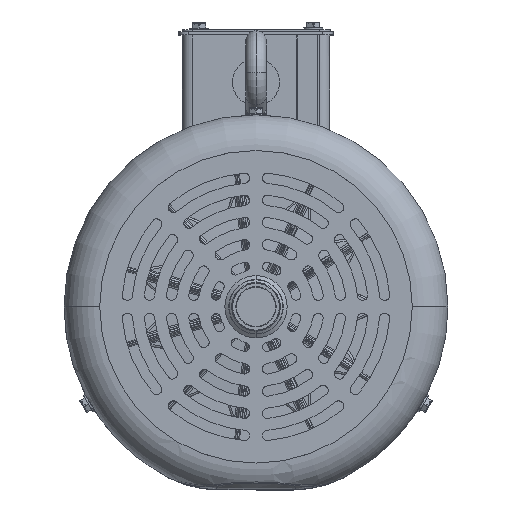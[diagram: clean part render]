
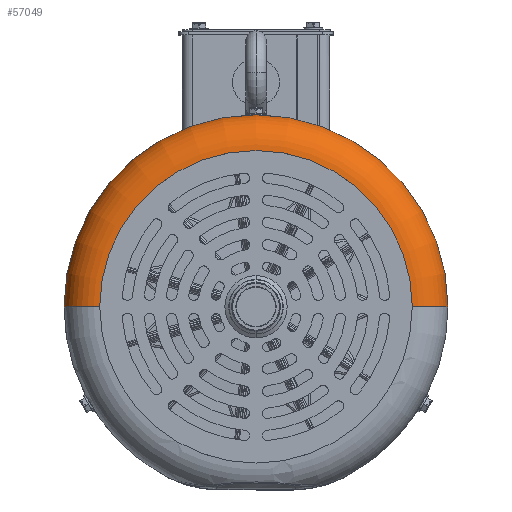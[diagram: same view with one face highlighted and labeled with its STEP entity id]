
A CAD part, top view. The second image highlights one B-rep face of the part: STEP entity #57049.
In plain terms, the highlighted toroidal (fillet/blend) face has major radius 73.889 mm and minor radius 16.891 mm.
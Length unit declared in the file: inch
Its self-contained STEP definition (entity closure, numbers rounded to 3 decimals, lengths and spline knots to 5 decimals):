
#3217 = EDGE_CURVE ( 'NONE', #5202, #138512, #97874, .T. ) ;
#5202 = VERTEX_POINT ( 'NONE', #27671 ) ;
#9460 = DIRECTION ( 'NONE',  ( 1., 0., 0. ) ) ;
#10665 = CARTESIAN_POINT ( 'NONE',  ( 3.574, 0., 18.67445 ) ) ;
#12051 = TOROIDAL_SURFACE ( 'NONE', #105674, 2.909, 0.665 ) ;
#13538 = AXIS2_PLACEMENT_3D ( 'NONE', #27636, #107387, #39080 ) ;
#13770 = CIRCLE ( 'NONE', #122442, 0.665 ) ;
#14218 = CARTESIAN_POINT ( 'NONE',  ( 2.909, 0., 18.67445 ) ) ;
#19241 = CARTESIAN_POINT ( 'NONE',  ( -2.909, 0., 19.33945 ) ) ;
#22202 = CARTESIAN_POINT ( 'NONE',  ( -2.909, 0., 18.67445 ) ) ;
#23771 = EDGE_CURVE ( 'NONE', #128953, #32180, #128699, .T. ) ;
#25749 = DIRECTION ( 'NONE',  ( -1., 0., 0. ) ) ;
#27636 = CARTESIAN_POINT ( 'NONE',  ( 0., 0., 19.33945 ) ) ;
#27671 = CARTESIAN_POINT ( 'NONE',  ( 2.909, 0., 19.33945 ) ) ;
#32180 = VERTEX_POINT ( 'NONE', #10665 ) ;
#33714 = DIRECTION ( 'NONE',  ( 1., 0., 0. ) ) ;
#38352 = EDGE_LOOP ( 'NONE', ( #120132, #105792, #109788, #43498 ) ) ;
#39080 = DIRECTION ( 'NONE',  ( -1., 0., 0. ) ) ;
#43498 = ORIENTED_EDGE ( 'NONE', *, *, #100657, .F. ) ;
#52235 = DIRECTION ( 'NONE',  ( 0., 0., -1. ) ) ;
#57049 = ADVANCED_FACE ( 'NONE', ( #95931 ), #12051, .T. ) ;
#62787 = AXIS2_PLACEMENT_3D ( 'NONE', #14218, #94034, #25749 ) ;
#63697 = DIRECTION ( 'NONE',  ( -1., 0., 0. ) ) ;
#77851 = DIRECTION ( 'NONE',  ( 0., 0., -1. ) ) ;
#91823 = CARTESIAN_POINT ( 'NONE',  ( -3.574, 0., 18.67445 ) ) ;
#94034 = DIRECTION ( 'NONE',  ( 0., 1., 0. ) ) ;
#95931 = FACE_OUTER_BOUND ( 'NONE', #38352, .T. ) ;
#96763 = CIRCLE ( 'NONE', #62787, 0.665 ) ;
#97105 = CARTESIAN_POINT ( 'NONE',  ( 0., 0., 18.67445 ) ) ;
#97874 = CIRCLE ( 'NONE', #13538, 2.909 ) ;
#100657 = EDGE_CURVE ( 'NONE', #138512, #128953, #13770, .T. ) ;
#101924 = DIRECTION ( 'NONE',  ( 0., -1., 0. ) ) ;
#105674 = AXIS2_PLACEMENT_3D ( 'NONE', #97105, #52235, #63697 ) ;
#105792 = ORIENTED_EDGE ( 'NONE', *, *, #135956, .T. ) ;
#107387 = DIRECTION ( 'NONE',  ( 0., 0., 1. ) ) ;
#108126 = AXIS2_PLACEMENT_3D ( 'NONE', #146335, #77851, #9460 ) ;
#109788 = ORIENTED_EDGE ( 'NONE', *, *, #23771, .F. ) ;
#120132 = ORIENTED_EDGE ( 'NONE', *, *, #3217, .F. ) ;
#122442 = AXIS2_PLACEMENT_3D ( 'NONE', #22202, #101924, #33714 ) ;
#128699 = CIRCLE ( 'NONE', #108126, 3.574 ) ;
#128953 = VERTEX_POINT ( 'NONE', #91823 ) ;
#135956 = EDGE_CURVE ( 'NONE', #5202, #32180, #96763, .T. ) ;
#138512 = VERTEX_POINT ( 'NONE', #19241 ) ;
#146335 = CARTESIAN_POINT ( 'NONE',  ( 0., 0., 18.67445 ) ) ;
